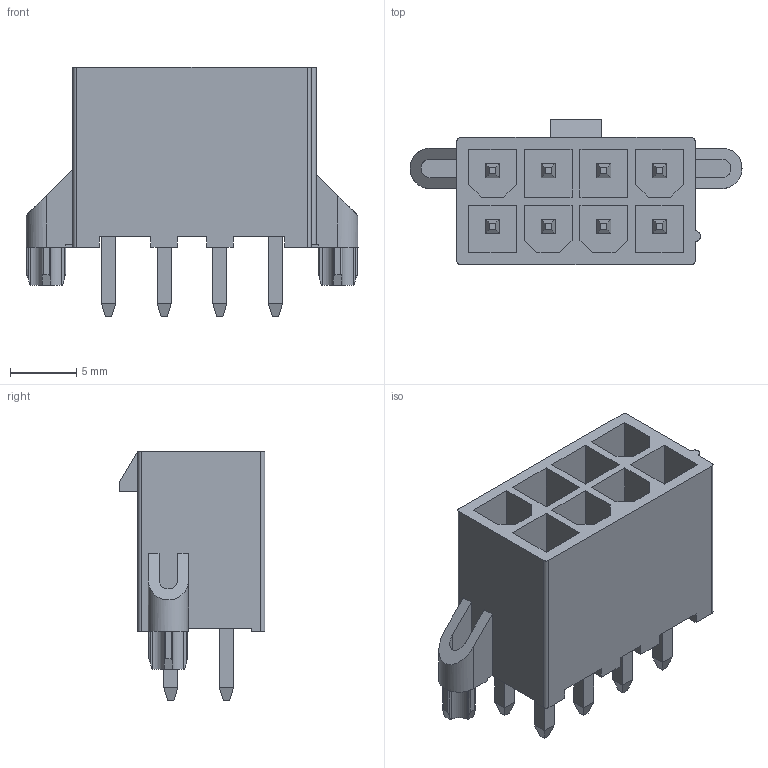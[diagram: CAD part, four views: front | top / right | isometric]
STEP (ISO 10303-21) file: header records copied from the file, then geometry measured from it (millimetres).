
FILE_DESCRIPTION((''),'2;1');
FILE_NAME('462070208','2017-01-27T',('ksrinivasara'),(''),'PRO/ENGINEER BY PARAMETRIC TECHNOLOGY CORPORATION, 2012310','PRO/ENGINEER BY PARAMETRIC TECHNOLOGY CORPORATION, 2012310','');
FILE_SCHEMA(('CONFIG_CONTROL_DESIGN'));
Length unit declared in the file: millimetre
Products named in the file (1): 462070208
Bounding box: 25.06 x 11 x 18.86 mm (x, y, z)
Volume: 1512 mm3; surface area: 2662.4 mm2
Topology: 1 solids, 1 shells, 327 faces, 854 edges, 558 vertices
Faces by surface type: plane 294, cylinder 33
Entity records: 9917 total; most frequent: CARTESIAN_POINT 1856, ORIENTED_EDGE 1662, DIRECTION 1556, EDGE_CURVE 831, VECTOR 768, LINE 768, VERTEX_POINT 532, AXIS2_PLACEMENT_3D 394
